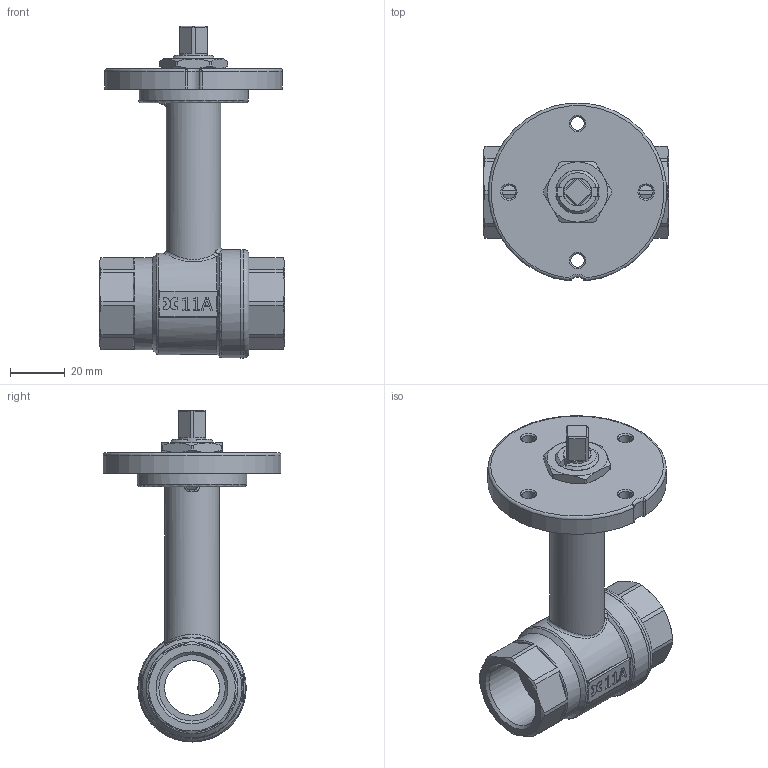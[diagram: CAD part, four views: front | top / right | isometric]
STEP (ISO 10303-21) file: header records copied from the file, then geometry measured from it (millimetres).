
FILE_DESCRIPTION((''),'2;1');
FILE_NAME('C:\Documents and Settings\ut4\Desktop\TICOM ULTIMATE\Valv. mot. 034 art.109 PM SM.stp','2012-07-16T15:58:45',('ut4'),(''),'Autodesk Inventor 2013','Autodesk Inventor 2013','');
FILE_SCHEMA(('AUTOMOTIVE_DESIGN { 1 0 10303 214 1 1 1 1 }'));
Length unit declared in the file: millimetre
Products named in the file (14): Valv. mot. 034 art.109 PM SM; sfera 034; Dischetto portamotore SM Ø16 lav; Dado blocca piastra SM1; Anello antigrip. perno mot. Ø13; Boccola antigrip. perno mot. Ø13; O-ring 9.75x1; sede 034; Manic. femmina-deviatore 034 mot; Corpo prolunga mot. 034; Perno prolunga mot. 13 q8; Tubetto prolunga mot. 014-034; Ghiera ferma asta mot. 17-16 prolunga; O-ring 23.53 x 1
Assembly tree (17 placements, depth 2):
  Valv. mot. 034 art.109 PM SM
    sfera 034
    Dischetto portamotore SM Ø16 lav
    Dado blocca piastra SM1
    Anello antigrip. perno mot. Ø13
    Boccola antigrip. perno mot. Ø13  x2
    O-ring 9.75x1  x2
    sede 034  x2
    Manic. femmina-deviatore 034 mot
    Corpo prolunga mot. 034
    Perno prolunga mot. 13 q8
    Tubetto prolunga mot. 014-034
    Ghiera ferma asta mot. 17-16 prolunga
    O-ring 23.53 x 1  x2
Bounding box: 67.5 x 64.73 x 121 mm (x, y, z)
Volume: 82417.9 mm3; surface area: 55234.3 mm2
Topology: 17 solids, 17 shells, 590 faces, 1430 edges, 881 vertices
Faces by surface type: plane 251, cylinder 143, cone 64, bspline 58, torus 53, sphere 21
Full cylindrical faces by diameter (mm): 4.917 x4, 10 x4, 10.1 x2, 10.2 x1, 10.4 x2, 11 x3, 11.1 x1, 12.9 x6, 13 x2, 14.5 x1, 15 x1, 15.3 x1, 15.5 x1, 16 x2, 17 x1, 20 x6, 24 x2, 24.2 x2, 28 x4, 32.5 x1, 33.5 x1, 34 x1, 34.5 x1, 37 x1, 39.5 x2, 40 x1
Entity records: 17952 total; most frequent: CARTESIAN_POINT 4484, DIRECTION 2613, ORIENTED_EDGE 2544, EDGE_CURVE 1272, AXIS2_PLACEMENT_3D 1009, VERTEX_POINT 843, EDGE_LOOP 723, VECTOR 595
